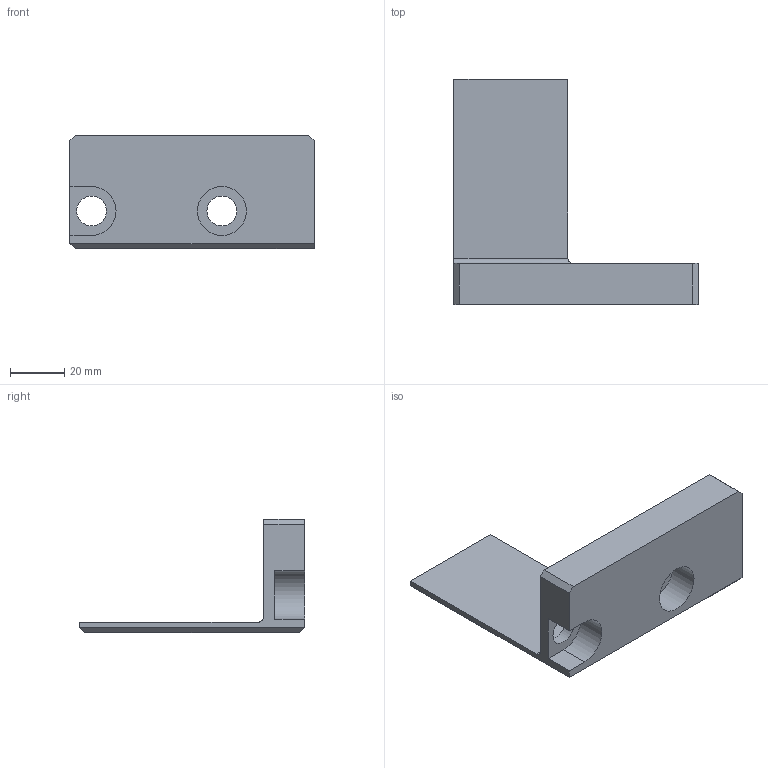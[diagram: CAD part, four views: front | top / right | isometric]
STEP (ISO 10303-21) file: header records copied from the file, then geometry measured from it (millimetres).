
FILE_DESCRIPTION(('STEP AP242'), '1');
FILE_NAME('16.012.05.102 Êîëîäêà ñóïïîðòà', '', ('UNSPECIFIED'), ('UNSPECIFIED'), 'ASCON STEP Converter 1.6', 'ASCON Math Kernel', '');
FILE_SCHEMA(('AP242_MANAGED_MODEL_BASED_3D_ENGINEERING_MIM_LF { 1 0 10303 442 1 1 4 }'));
Length unit declared in the file: millimetre
Products named in the file (1): 16.012.05.102-01
Bounding box: 90 x 83 x 42 mm (x, y, z)
Volume: 61383 mm3; surface area: 18211.1 mm2
Topology: 1 solids, 1 shells, 26 faces, 65 edges, 42 vertices
Faces by surface type: plane 19, cylinder 7
Full cylindrical faces by diameter (mm): 11 x2, 18 x1
Entity records: 1002 total; most frequent: CARTESIAN_POINT 140, ORIENTED_EDGE 124, DIRECTION 122, EDGE_CURVE 62, LINE 50, VECTOR 50, VERTEX_POINT 42, AXIS2_PLACEMENT_3D 36
